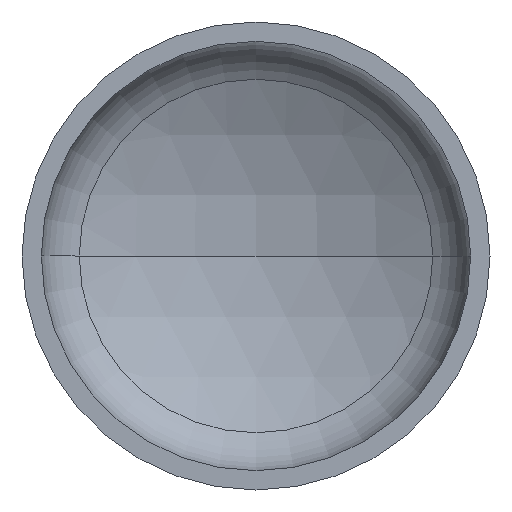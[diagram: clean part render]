
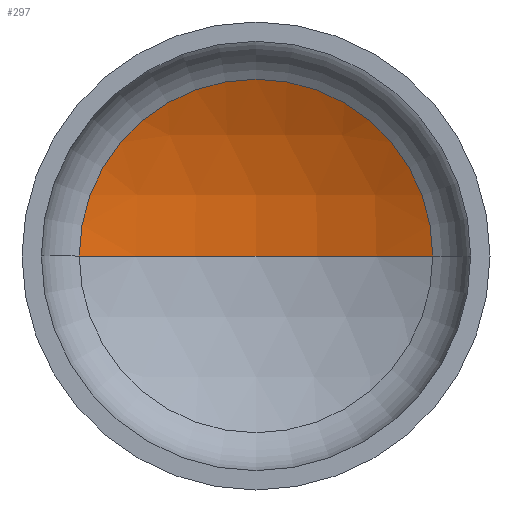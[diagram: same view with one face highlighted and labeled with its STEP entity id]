
A CAD part, front view. The second image highlights one B-rep face of the part: STEP entity #297.
In plain terms, the highlighted spherical face has radius 406 mm.
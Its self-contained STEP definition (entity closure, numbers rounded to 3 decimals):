
#5 = VERTEX_POINT ( 'NONE', #287 ) ;
#14 = EDGE_LOOP ( 'NONE', ( #37, #17, #155 ) ) ;
#15 = AXIS2_PLACEMENT_3D ( 'NONE', #40, #406, #79 ) ;
#17 = ORIENTED_EDGE ( 'NONE', *, *, #104, .T. ) ;
#19 = DIRECTION ( 'NONE',  ( -1., 0., 0. ) ) ;
#21 = DIRECTION ( 'NONE',  ( 0., 0., -1. ) ) ;
#35 = CIRCLE ( 'NONE', #42, 406. ) ;
#37 = ORIENTED_EDGE ( 'NONE', *, *, #109, .F. ) ;
#38 = VERTEX_POINT ( 'NONE', #242 ) ;
#40 = CARTESIAN_POINT ( 'NONE',  ( 0., -219.066, 0. ) ) ;
#41 = AXIS2_PLACEMENT_3D ( 'NONE', #293, #252, #389 ) ;
#42 = AXIS2_PLACEMENT_3D ( 'NONE', #52, #21, #19 ) ;
#44 = AXIS2_PLACEMENT_3D ( 'NONE', #319, #165, #347 ) ;
#52 = CARTESIAN_POINT ( 'NONE',  ( 0., -219.066, 0. ) ) ;
#79 = DIRECTION ( 'NONE',  ( -1., 0., 0. ) ) ;
#103 = EDGE_CURVE ( 'NONE', #5, #38, #365, .T. ) ;
#104 = EDGE_CURVE ( 'NONE', #239, #5, #35, .T. ) ;
#109 = EDGE_CURVE ( 'NONE', #239, #38, #243, .T. ) ;
#121 = FACE_OUTER_BOUND ( 'NONE', #14, .T. ) ;
#155 = ORIENTED_EDGE ( 'NONE', *, *, #103, .T. ) ;
#165 = DIRECTION ( 'NONE',  ( 0., -1., 0. ) ) ;
#169 = CARTESIAN_POINT ( 'NONE',  ( 0., 186.934, 0. ) ) ;
#239 = VERTEX_POINT ( 'NONE', #169 ) ;
#242 = CARTESIAN_POINT ( 'NONE',  ( -191.86, 138.741, 0. ) ) ;
#243 = CIRCLE ( 'NONE', #41, 406. ) ;
#252 = DIRECTION ( 'NONE',  ( 0., 0., 1. ) ) ;
#285 = SPHERICAL_SURFACE ( 'NONE', #15, 406. ) ;
#287 = CARTESIAN_POINT ( 'NONE',  ( 191.86, 138.741, 0. ) ) ;
#293 = CARTESIAN_POINT ( 'NONE',  ( 0., -219.066, 0. ) ) ;
#297 = ADVANCED_FACE ( 'NONE', ( #121 ), #285, .F. ) ;
#319 = CARTESIAN_POINT ( 'NONE',  ( 0., 138.741, 0. ) ) ;
#347 = DIRECTION ( 'NONE',  ( 1., 0., 0. ) ) ;
#365 = CIRCLE ( 'NONE', #44, 191.86 ) ;
#389 = DIRECTION ( 'NONE',  ( 1., 0., 0. ) ) ;
#406 = DIRECTION ( 'NONE',  ( 0., 0., -1. ) ) ;
